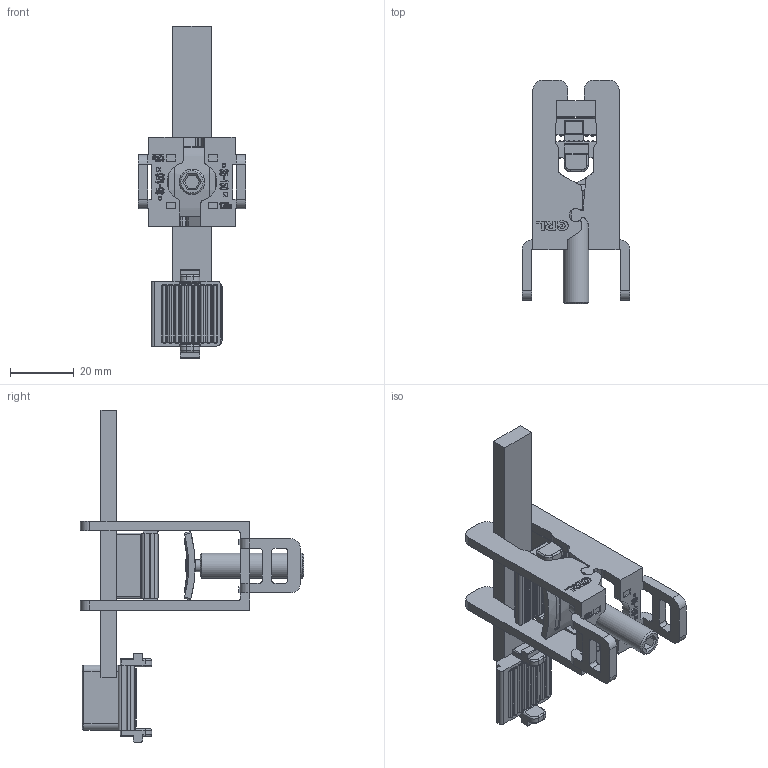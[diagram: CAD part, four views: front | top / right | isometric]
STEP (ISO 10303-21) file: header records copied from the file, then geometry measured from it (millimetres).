
FILE_DESCRIPTION (( 'STEP AP203' ), '1' );
FILE_NAME ('54135.STEP', '2021-08-13T05:21:19', ( '' ), ( '' ), 'SwSTEP 2.0', 'SolidWorks 2017', '' );
FILE_SCHEMA (( 'CONFIG_CONTROL_DESIGN' ));
Length unit declared in the file: millimetre
Products named in the file (2): 54135
Bounding box: 33.9 x 70.2 x 104.42 mm (x, y, z)
Volume: 22724 mm3; surface area: 17764.1 mm2
Topology: 7 solids, 7 shells, 1054 faces, 2704 edges, 1712 vertices
Faces by surface type: plane 590, cylinder 227, bspline 184, torus 26, sphere 20, cone 7
Full cylindrical faces by diameter (mm): 0.8 x2, 1.2 x2, 2 x1, 3.8 x1, 3.9 x1, 7 x1, 8 x1
Entity records: 39261 total; most frequent: CARTESIAN_POINT 14832, ORIENTED_EDGE 5348, DIRECTION 4518, EDGE_CURVE 2674, VECTOR 1750, LINE 1750, VERTEX_POINT 1706, AXIS2_PLACEMENT_3D 1384
